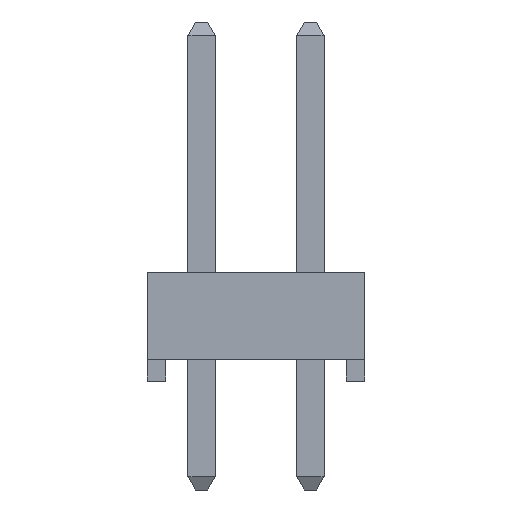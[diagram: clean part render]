
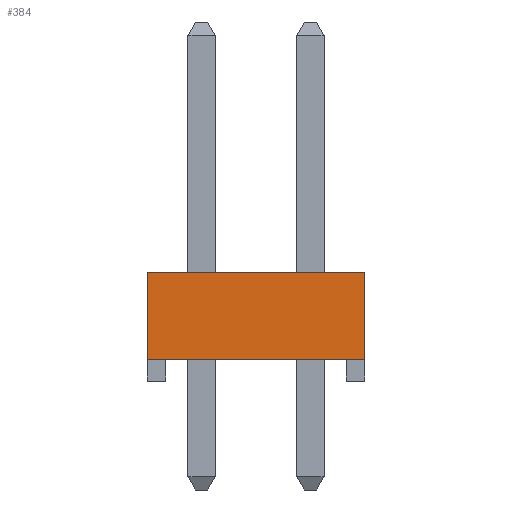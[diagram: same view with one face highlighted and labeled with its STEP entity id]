
A CAD part, left-side view. The second image highlights one B-rep face of the part: STEP entity #384.
In plain terms, the highlighted planar face has unit normal (-1, 0, 0).
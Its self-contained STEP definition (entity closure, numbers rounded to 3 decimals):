
#215 = VERTEX_POINT('',#216);
#216 = CARTESIAN_POINT('',(-15.24,-2.544,0.587));
#222 = EDGE_CURVE('',#215,#223,#225,.T.);
#223 = VERTEX_POINT('',#224);
#224 = CARTESIAN_POINT('',(-15.24,2.536,0.587));
#225 = LINE('',#226,#227);
#226 = CARTESIAN_POINT('',(-15.24,2.536,0.587));
#227 = VECTOR('',#228,1.);
#228 = DIRECTION('',(0.,1.,0.));
#366 = EDGE_CURVE('',#367,#223,#369,.T.);
#367 = VERTEX_POINT('',#368);
#368 = CARTESIAN_POINT('',(-15.24,2.536,2.619));
#369 = LINE('',#370,#371);
#370 = CARTESIAN_POINT('',(-15.24,2.536,2.619));
#371 = VECTOR('',#372,1.);
#372 = DIRECTION('',(0.,0.,-1.));
#384 = ADVANCED_FACE('',(#385),#403,.F.);
#385 = FACE_BOUND('',#386,.T.);
#386 = EDGE_LOOP('',(#387,#388,#396,#402));
#387 = ORIENTED_EDGE('',*,*,#222,.F.);
#388 = ORIENTED_EDGE('',*,*,#389,.F.);
#389 = EDGE_CURVE('',#390,#215,#392,.T.);
#390 = VERTEX_POINT('',#391);
#391 = CARTESIAN_POINT('',(-15.24,-2.544,2.619));
#392 = LINE('',#393,#394);
#393 = CARTESIAN_POINT('',(-15.24,-2.544,2.619));
#394 = VECTOR('',#395,1.);
#395 = DIRECTION('',(0.,0.,-1.));
#396 = ORIENTED_EDGE('',*,*,#397,.F.);
#397 = EDGE_CURVE('',#367,#390,#398,.T.);
#398 = LINE('',#399,#400);
#399 = CARTESIAN_POINT('',(-15.24,2.536,2.619));
#400 = VECTOR('',#401,1.);
#401 = DIRECTION('',(0.,-1.,0.));
#402 = ORIENTED_EDGE('',*,*,#366,.T.);
#403 = PLANE('',#404);
#404 = AXIS2_PLACEMENT_3D('',#405,#406,#407);
#405 = CARTESIAN_POINT('',(-15.24,2.536,2.619));
#406 = DIRECTION('',(1.,0.,0.));
#407 = DIRECTION('',(0.,1.,0.));
